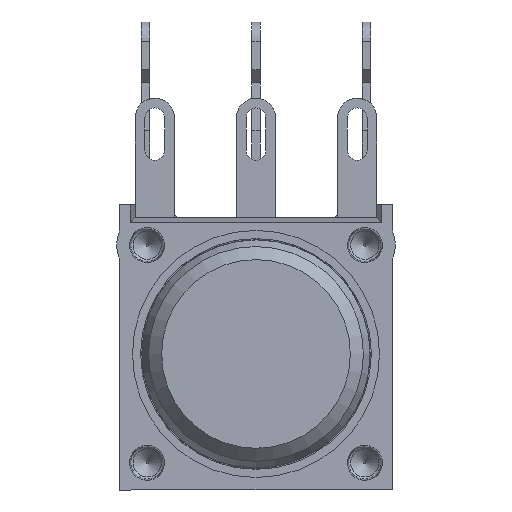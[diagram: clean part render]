
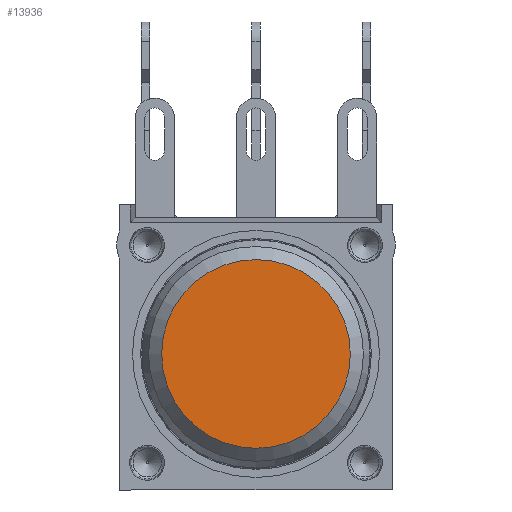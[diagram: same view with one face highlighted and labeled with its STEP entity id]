
A CAD part, left-side view. The second image highlights one B-rep face of the part: STEP entity #13936.
In plain terms, the highlighted planar face has unit normal (-1, 0, 0) as drawn and (0, 0, 1) by its records, which use the part's own axes.
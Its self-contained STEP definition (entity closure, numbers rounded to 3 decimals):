
#5221=ORIENTED_EDGE('',*,*,#8140,.T.);
#8140=EDGE_CURVE('',#9788,#9788,#10672,.T.);
#9788=VERTEX_POINT('',#22130);
#10672=CIRCLE('',#15511,4.334);
#11436=EDGE_LOOP('',(#5221));
#12498=FACE_BOUND('',#11436,.T.);
#13358=PLANE('',#15510);
#13936=ADVANCED_FACE('',(#12498),#13358,.T.);
#15510=AXIS2_PLACEMENT_3D('',#22128,#18160,#18161);
#15511=AXIS2_PLACEMENT_3D('',#22129,#18162,#18163);
#18160=DIRECTION('',(0.,0.,1.));
#18161=DIRECTION('',(1.,0.,0.));
#18162=DIRECTION('',(0.,0.,1.));
#18163=DIRECTION('',(1.,0.,0.));
#22128=CARTESIAN_POINT('',(0.,0.,1.4));
#22129=CARTESIAN_POINT('',(0.,0.,1.4));
#22130=CARTESIAN_POINT('',(4.334,0.,1.4));
